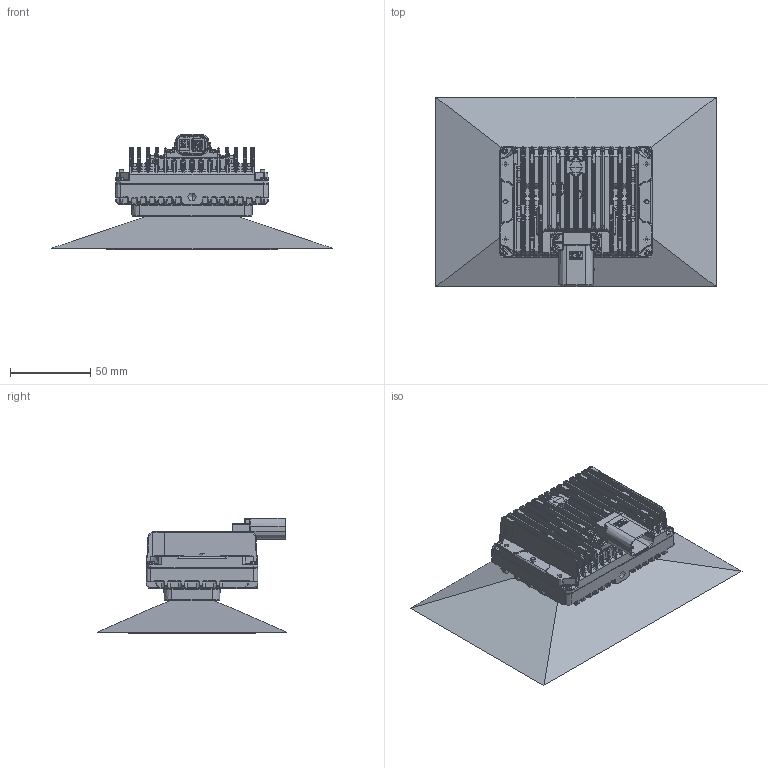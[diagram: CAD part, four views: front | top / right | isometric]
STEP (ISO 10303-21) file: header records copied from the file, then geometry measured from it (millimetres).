
FILE_DESCRIPTION (( 'STEP AP214' ), '1' );
FILE_NAME ('0600_Csample_淕儂俋夤勤俋唳_20241122.STEP', '2024-11-22T01:47:57', ( '' ), ( '' ), 'SwSTEP 2.0', 'SolidWorks 2019', '' );
FILE_SCHEMA (( 'AUTOMOTIVE_DESIGN' ));
Length unit declared in the file: millimetre
Products named in the file (14): 0600_Csample_淕儂俋夤勤俋唳_20241122; RS-D102-0199-00_SCREW_M2×7_1_3; 窐陑^0600_Csample_1_3; 20306-0089-02_窗口片1_1_3; C-2397179-1_1_1_1; 20306-0090-02_窗口片2_1_3; FOV婦釐; RS-D102-0197-00_綴褲_1_3; RS-D103-0119-00_02_噩芛_01_1_3; FOV侐褒熟笛_50mm_1_2; RS-D102-0196-00_ヶ褲_1_1_3; 20208-0138-00_透气膜（AVS247S)_1_3; Csample_綴褲郪璃_1_3; 嫖陑^0600_Csample_1_3
Assembly tree (21 placements, depth 3):
  0600_Csample_淕儂俋夤勤俋唳_20241122
    Csample_綴褲郪璃_1_3
      RS-D102-0197-00_綴褲_1_3
      RS-D102-0199-00_SCREW_M2×7_1_3  x4
      C-2397179-1_1_1_1
    RS-D103-0119-00_02_噩芛_01_1_3
      RS-D102-0196-00_ヶ褲_1_1_3
    窐陑^0600_Csample_1_3
    嫖陑^0600_Csample_1_3
    20208-0138-00_透气膜（AVS247S)_1_3
    20306-0089-02_窗口片1_1_3
    20306-0090-02_窗口片2_1_3  x2
    RS-D102-0199-00_SCREW_M2×7_1_3  x4
    FOV侐褒熟笛_50mm_1_2
    FOV婦釐
Bounding box: 174.55 x 117.99 x 71.9 mm (x, y, z)
Volume: 197669.5 mm3; surface area: 94898.1 mm2
Topology: 25 solids, 27 shells, 7281 faces, 18177 edges, 10877 vertices
Faces by surface type: plane 2727, cylinder 2323, bspline 1598, torus 276, cone 275, sphere 82
Entity records: 284758 total; most frequent: CARTESIAN_POINT 102836, ORIENTED_EDGE 34642, DIRECTION 28612, EDGE_CURVE 17333, VERTEX_POINT 10467, AXIS2_PLACEMENT_3D 9662, VECTOR 9288, LINE 9288
